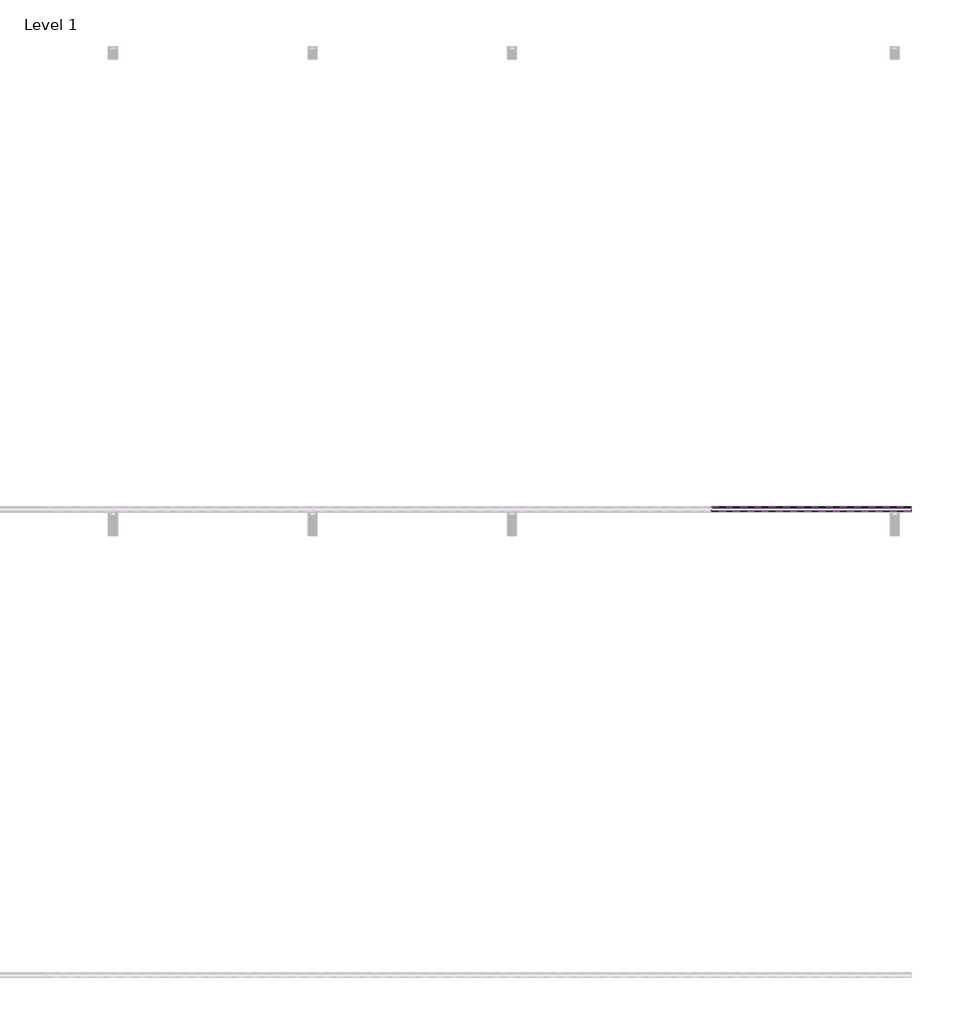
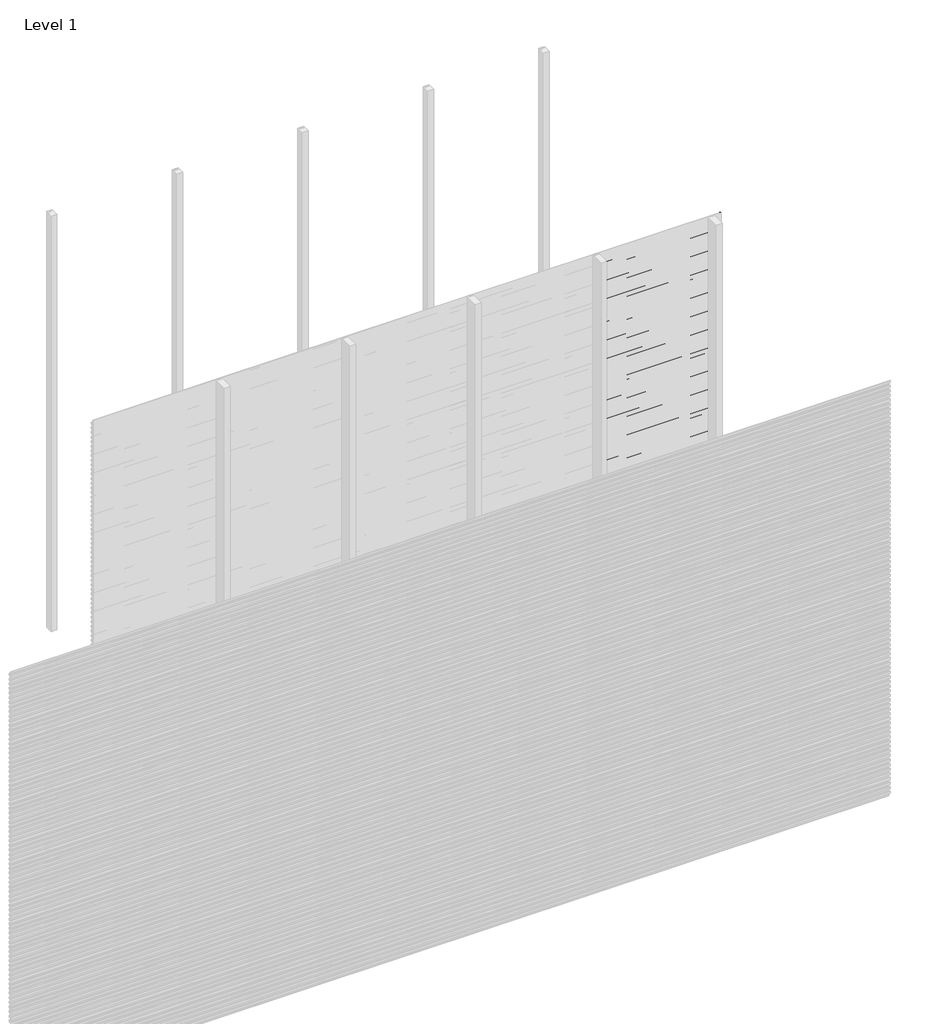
# One storey, part 40 of 96: 76 proxies.
"""IFC4 building model written with IfcOpenShell, lengths in millimetres."""

from ifc_helpers import new_model, si_unit, frame, origin, place, context, project, spatial, polyline, outline, extrude, element, save

model = new_model("IFC4")

# Units and contexts
model_context = context("Model", 3, world=origin())
ifc_project = project(units=[si_unit("LENGTHUNIT", "METRE", prefix="MILLI")], contexts=[model_context])

# Site, building, storey
site = spatial("IfcSite", under=ifc_project)
building = spatial("IfcBuilding", under=site)
storey = spatial("IfcBuildingStorey", under=building, Name="Level 1", Elevation=0.0)

# Proxies
placement = place(None, origin())
element("IfcBuildingElementProxy", 1, Name="Wall Sweeps", at=placement, inside=storey, context=model_context, shape_type="SweptSolid", body=[
    extrude(outline(polyline([(-35977.6, 341.0655033), (-35977.6, 326.7779188), (-35982.4114965, 324.0), (-35982.4114965, 325.2701706), (-35978.85, 327.3264016), (-35978.85, 340.3437382), (-35998.0, 351.4000799), (-35998.0, 366.3), (-35996.75, 366.3), (-35996.75, 352.1217609), (-35977.6, 341.0655033)])), frame((4285.7142857, 0.0, 0.0), z_axis=(1.0, 0.0, 0.0), x_axis=(0.0, 1.0, 0.0)), (0.0, 0.0, 1.0), 857.1428571),
])
element("IfcBuildingElementProxy", 2, Name="Wall Sweeps", at=placement, inside=storey, context=model_context, shape_type="SweptSolid", body=[
    extrude(outline(polyline([(-35977.6, 307.7655033), (-35977.6, 293.4779188), (-35982.4114965, 290.7), (-35982.4114965, 291.9701706), (-35978.85, 294.0264016), (-35978.85, 307.0437382), (-35998.0, 318.1000799), (-35998.0, 333.0), (-35996.75, 333.0), (-35996.75, 318.8217609), (-35977.6, 307.7655033)])), frame((4285.7142857, 0.0, 0.0), z_axis=(1.0, 0.0, 0.0), x_axis=(0.0, 1.0, 0.0)), (0.0, 0.0, 1.0), 857.1428571),
])
element("IfcBuildingElementProxy", 3, Name="Wall Sweeps", at=placement, inside=storey, context=model_context, shape_type="SweptSolid", body=[
    extrude(outline(polyline([(-35977.6, 274.4655033), (-35977.6, 260.1779188), (-35982.4114965, 257.4), (-35982.4114965, 258.6701706), (-35978.85, 260.7264016), (-35978.85, 273.7437382), (-35998.0, 284.8000799), (-35998.0, 299.7), (-35996.75, 299.7), (-35996.75, 285.5217609), (-35977.6, 274.4655033)])), frame((4285.7142857, 0.0, 0.0), z_axis=(1.0, 0.0, 0.0), x_axis=(0.0, 1.0, 0.0)), (0.0, 0.0, 1.0), 857.1428571),
])
element("IfcBuildingElementProxy", 4, Name="Wall Sweeps", at=placement, inside=storey, context=model_context, shape_type="SweptSolid", body=[
    extrude(outline(polyline([(-35977.6, 241.1655033), (-35977.6, 226.8779188), (-35982.4114965, 224.1), (-35982.4114965, 225.3701706), (-35978.85, 227.4264016), (-35978.85, 240.4437382), (-35998.0, 251.5000799), (-35998.0, 266.4), (-35996.75, 266.4), (-35996.75, 252.2217609), (-35977.6, 241.1655033)])), frame((4285.7142857, 0.0, 0.0), z_axis=(1.0, 0.0, 0.0), x_axis=(0.0, 1.0, 0.0)), (0.0, 0.0, 1.0), 857.1428571),
])
element("IfcBuildingElementProxy", 5, Name="Wall Sweeps", at=placement, inside=storey, context=model_context, shape_type="SweptSolid", body=[
    extrude(outline(polyline([(-35977.6, 207.8655033), (-35977.6, 193.5779188), (-35982.4114965, 190.8), (-35982.4114965, 192.0701706), (-35978.85, 194.1264016), (-35978.85, 207.1437382), (-35998.0, 218.2000799), (-35998.0, 233.1), (-35996.75, 233.1), (-35996.75, 218.9217609), (-35977.6, 207.8655033)])), frame((4285.7142857, 0.0, 0.0), z_axis=(1.0, 0.0, 0.0), x_axis=(0.0, 1.0, 0.0)), (0.0, 0.0, 1.0), 857.1428571),
])
element("IfcBuildingElementProxy", 6, Name="Wall Sweeps", at=placement, inside=storey, context=model_context, shape_type="SweptSolid", body=[
    extrude(outline(polyline([(-35977.6, 174.5655033), (-35977.6, 160.2779188), (-35982.4114965, 157.5), (-35982.4114965, 158.7701706), (-35978.85, 160.8264016), (-35978.85, 173.8437382), (-35998.0, 184.9000799), (-35998.0, 199.8), (-35996.75, 199.8), (-35996.75, 185.6217609), (-35977.6, 174.5655033)])), frame((4285.7142857, 0.0, 0.0), z_axis=(1.0, 0.0, 0.0), x_axis=(0.0, 1.0, 0.0)), (0.0, 0.0, 1.0), 857.1428571),
])
element("IfcBuildingElementProxy", 7, Name="Wall Sweeps", at=placement, inside=storey, context=model_context, shape_type="SweptSolid", body=[
    extrude(outline(polyline([(-35977.6, 141.2655033), (-35977.6, 126.9779188), (-35982.4114965, 124.2), (-35982.4114965, 125.4701706), (-35978.85, 127.5264016), (-35978.85, 140.5437382), (-35998.0, 151.6000799), (-35998.0, 166.5), (-35996.75, 166.5), (-35996.75, 152.3217609), (-35977.6, 141.2655033)])), frame((4285.7142857, 0.0, 0.0), z_axis=(1.0, 0.0, 0.0), x_axis=(0.0, 1.0, 0.0)), (0.0, 0.0, 1.0), 857.1428571),
])
element("IfcBuildingElementProxy", 8, Name="Wall Sweeps", at=placement, inside=storey, context=model_context, shape_type="SweptSolid", body=[
    extrude(outline(polyline([(-35977.6, 107.9655033), (-35977.6, 93.6779188), (-35982.4114965, 90.9), (-35982.4114965, 92.1701706), (-35978.85, 94.2264016), (-35978.85, 107.2437382), (-35998.0, 118.3000799), (-35998.0, 133.2), (-35996.75, 133.2), (-35996.75, 119.0217609), (-35977.6, 107.9655033)])), frame((4285.7142857, 0.0, 0.0), z_axis=(1.0, 0.0, 0.0), x_axis=(0.0, 1.0, 0.0)), (0.0, 0.0, 1.0), 857.1428571),
])
element("IfcBuildingElementProxy", 9, Name="Wall Sweeps", at=placement, inside=storey, context=model_context, shape_type="SweptSolid", body=[
    extrude(outline(polyline([(-35977.6, 74.6655033), (-35977.6, 60.3779188), (-35982.4114965, 57.6), (-35982.4114965, 58.8701706), (-35978.85, 60.9264016), (-35978.85, 73.9437382), (-35998.0, 85.0000799), (-35998.0, 99.9), (-35996.75, 99.9), (-35996.75, 85.7217609), (-35977.6, 74.6655033)])), frame((4285.7142857, 0.0, 0.0), z_axis=(1.0, 0.0, 0.0), x_axis=(0.0, 1.0, 0.0)), (0.0, 0.0, 1.0), 857.1428571),
])
element("IfcBuildingElementProxy", 10, Name="Wall Sweeps", at=placement, inside=storey, context=model_context, shape_type="SweptSolid", body=[
    extrude(outline(polyline([(-35977.6, 41.3655033), (-35977.6, 27.0779188), (-35982.4114965, 24.3), (-35982.4114965, 25.5701706), (-35978.85, 27.6264016), (-35978.85, 40.6437382), (-35998.0, 51.7000799), (-35998.0, 66.6), (-35996.75, 66.6), (-35996.75, 52.4217609), (-35977.6, 41.3655033)])), frame((4285.7142857, 0.0, 0.0), z_axis=(1.0, 0.0, 0.0), x_axis=(0.0, 1.0, 0.0)), (0.0, 0.0, 1.0), 857.1428571),
])
element("IfcBuildingElementProxy", 11, Name="Wall Sweeps", at=placement, inside=storey, context=model_context, shape_type="SweptSolid", body=[
    extrude(outline(polyline([(-35977.6, 8.0655033), (-35977.6, -6.2220812), (-35982.4114965, -9.0), (-35982.4114965, -7.7298294), (-35978.85, -5.6735984), (-35978.85, 7.3437382), (-35998.0, 18.4000799), (-35998.0, 33.3), (-35996.75, 33.3), (-35996.75, 19.1217609), (-35977.6, 8.0655033)])), frame((4285.7142857, 0.0, 0.0), z_axis=(1.0, 0.0, 0.0), x_axis=(0.0, 1.0, 0.0)), (0.0, 0.0, 1.0), 857.1428571),
])
element("IfcBuildingElementProxy", 12, Name="Wall Sweeps", at=placement, inside=storey, context=model_context, shape_type="SweptSolid", body=[
    extrude(outline(polyline([(-35977.6, 2971.7655033), (-35977.6, 2957.4779188), (-35982.4114965, 2954.7), (-35982.4114965, 2955.9701706), (-35978.85, 2958.0264016), (-35978.85, 2971.0437382), (-35998.0, 2982.1000799), (-35998.0, 2997.0), (-35996.75, 2997.0), (-35996.75, 2982.8217609), (-35977.6, 2971.7655033)])), frame((5142.8571429, 0.0, 0.0), z_axis=(1.0, 0.0, 0.0), x_axis=(0.0, 1.0, 0.0)), (0.0, 0.0, 1.0), 857.1428571),
])
element("IfcBuildingElementProxy", 13, Name="Wall Sweeps", at=placement, inside=storey, context=model_context, shape_type="SweptSolid", body=[
    extrude(outline(polyline([(-35977.6, 2938.4655033), (-35977.6, 2924.1779188), (-35982.4114965, 2921.4), (-35982.4114965, 2922.6701706), (-35978.85, 2924.7264016), (-35978.85, 2937.7437382), (-35998.0, 2948.8000799), (-35998.0, 2963.7), (-35996.75, 2963.7), (-35996.75, 2949.5217609), (-35977.6, 2938.4655033)])), frame((5142.8571429, 0.0, 0.0), z_axis=(1.0, 0.0, 0.0), x_axis=(0.0, 1.0, 0.0)), (0.0, 0.0, 1.0), 857.1428571),
])
element("IfcBuildingElementProxy", 14, Name="Wall Sweeps", at=placement, inside=storey, context=model_context, shape_type="SweptSolid", body=[
    extrude(outline(polyline([(-35977.6, 2905.1655033), (-35977.6, 2890.8779188), (-35982.4114965, 2888.1), (-35982.4114965, 2889.3701706), (-35978.85, 2891.4264016), (-35978.85, 2904.4437382), (-35998.0, 2915.5000799), (-35998.0, 2930.4), (-35996.75, 2930.4), (-35996.75, 2916.2217609), (-35977.6, 2905.1655033)])), frame((5142.8571429, 0.0, 0.0), z_axis=(1.0, 0.0, 0.0), x_axis=(0.0, 1.0, 0.0)), (0.0, 0.0, 1.0), 857.1428571),
])
element("IfcBuildingElementProxy", 15, Name="Wall Sweeps", at=placement, inside=storey, context=model_context, shape_type="SweptSolid", body=[
    extrude(outline(polyline([(-35977.6, 2871.8655033), (-35977.6, 2857.5779188), (-35982.4114965, 2854.8), (-35982.4114965, 2856.0701706), (-35978.85, 2858.1264016), (-35978.85, 2871.1437382), (-35998.0, 2882.2000799), (-35998.0, 2897.1), (-35996.75, 2897.1), (-35996.75, 2882.9217609), (-35977.6, 2871.8655033)])), frame((5142.8571429, 0.0, 0.0), z_axis=(1.0, 0.0, 0.0), x_axis=(0.0, 1.0, 0.0)), (0.0, 0.0, 1.0), 857.1428571),
])
element("IfcBuildingElementProxy", 16, Name="Wall Sweeps", at=placement, inside=storey, context=model_context, shape_type="SweptSolid", body=[
    extrude(outline(polyline([(-35977.6, 2838.5655033), (-35977.6, 2824.2779188), (-35982.4114965, 2821.5), (-35982.4114965, 2822.7701706), (-35978.85, 2824.8264016), (-35978.85, 2837.8437382), (-35998.0, 2848.9000799), (-35998.0, 2863.8), (-35996.75, 2863.8), (-35996.75, 2849.6217609), (-35977.6, 2838.5655033)])), frame((5142.8571429, 0.0, 0.0), z_axis=(1.0, 0.0, 0.0), x_axis=(0.0, 1.0, 0.0)), (0.0, 0.0, 1.0), 857.1428571),
])
element("IfcBuildingElementProxy", 17, Name="Wall Sweeps", at=placement, inside=storey, context=model_context, shape_type="SweptSolid", body=[
    extrude(outline(polyline([(-35977.6, 2805.2655033), (-35977.6, 2790.9779188), (-35982.4114965, 2788.2), (-35982.4114965, 2789.4701706), (-35978.85, 2791.5264016), (-35978.85, 2804.5437382), (-35998.0, 2815.6000799), (-35998.0, 2830.5), (-35996.75, 2830.5), (-35996.75, 2816.3217609), (-35977.6, 2805.2655033)])), frame((5142.8571429, 0.0, 0.0), z_axis=(1.0, 0.0, 0.0), x_axis=(0.0, 1.0, 0.0)), (0.0, 0.0, 1.0), 857.1428571),
])
element("IfcBuildingElementProxy", 18, Name="Wall Sweeps", at=placement, inside=storey, context=model_context, shape_type="SweptSolid", body=[
    extrude(outline(polyline([(-35977.6, 2771.9655033), (-35977.6, 2757.6779188), (-35982.4114965, 2754.9), (-35982.4114965, 2756.1701706), (-35978.85, 2758.2264016), (-35978.85, 2771.2437382), (-35998.0, 2782.3000799), (-35998.0, 2797.2), (-35996.75, 2797.2), (-35996.75, 2783.0217609), (-35977.6, 2771.9655033)])), frame((5142.8571429, 0.0, 0.0), z_axis=(1.0, 0.0, 0.0), x_axis=(0.0, 1.0, 0.0)), (0.0, 0.0, 1.0), 857.1428571),
])
element("IfcBuildingElementProxy", 19, Name="Wall Sweeps", at=placement, inside=storey, context=model_context, shape_type="SweptSolid", body=[
    extrude(outline(polyline([(-35977.6, 2738.6655033), (-35977.6, 2724.3779188), (-35982.4114965, 2721.6), (-35982.4114965, 2722.8701706), (-35978.85, 2724.9264016), (-35978.85, 2737.9437382), (-35998.0, 2749.0000799), (-35998.0, 2763.9), (-35996.75, 2763.9), (-35996.75, 2749.7217609), (-35977.6, 2738.6655033)])), frame((5142.8571429, 0.0, 0.0), z_axis=(1.0, 0.0, 0.0), x_axis=(0.0, 1.0, 0.0)), (0.0, 0.0, 1.0), 857.1428571),
])
element("IfcBuildingElementProxy", 20, Name="Wall Sweeps", at=placement, inside=storey, context=model_context, shape_type="SweptSolid", body=[
    extrude(outline(polyline([(-35977.6, 2705.3655033), (-35977.6, 2691.0779188), (-35982.4114965, 2688.3), (-35982.4114965, 2689.5701706), (-35978.85, 2691.6264016), (-35978.85, 2704.6437382), (-35998.0, 2715.7000799), (-35998.0, 2730.6), (-35996.75, 2730.6), (-35996.75, 2716.4217609), (-35977.6, 2705.3655033)])), frame((5142.8571429, 0.0, 0.0), z_axis=(1.0, 0.0, 0.0), x_axis=(0.0, 1.0, 0.0)), (0.0, 0.0, 1.0), 857.1428571),
])
element("IfcBuildingElementProxy", 21, Name="Wall Sweeps", at=placement, inside=storey, context=model_context, shape_type="SweptSolid", body=[
    extrude(outline(polyline([(-35977.6, 2672.0655033), (-35977.6, 2657.7779188), (-35982.4114965, 2655.0), (-35982.4114965, 2656.2701706), (-35978.85, 2658.3264016), (-35978.85, 2671.3437382), (-35998.0, 2682.4000799), (-35998.0, 2697.3), (-35996.75, 2697.3), (-35996.75, 2683.1217609), (-35977.6, 2672.0655033)])), frame((5142.8571429, 0.0, 0.0), z_axis=(1.0, 0.0, 0.0), x_axis=(0.0, 1.0, 0.0)), (0.0, 0.0, 1.0), 857.1428571),
])
element("IfcBuildingElementProxy", 22, Name="Wall Sweeps", at=placement, inside=storey, context=model_context, shape_type="SweptSolid", body=[
    extrude(outline(polyline([(-35977.6, 2638.7655033), (-35977.6, 2624.4779188), (-35982.4114965, 2621.7), (-35982.4114965, 2622.9701706), (-35978.85, 2625.0264016), (-35978.85, 2638.0437382), (-35998.0, 2649.1000799), (-35998.0, 2664.0), (-35996.75, 2664.0), (-35996.75, 2649.8217609), (-35977.6, 2638.7655033)])), frame((5142.8571429, 0.0, 0.0), z_axis=(1.0, 0.0, 0.0), x_axis=(0.0, 1.0, 0.0)), (0.0, 0.0, 1.0), 857.1428571),
])
element("IfcBuildingElementProxy", 23, Name="Wall Sweeps", at=placement, inside=storey, context=model_context, shape_type="SweptSolid", body=[
    extrude(outline(polyline([(-35977.6, 2605.4655033), (-35977.6, 2591.1779188), (-35982.4114965, 2588.4), (-35982.4114965, 2589.6701706), (-35978.85, 2591.7264016), (-35978.85, 2604.7437382), (-35998.0, 2615.8000799), (-35998.0, 2630.7), (-35996.75, 2630.7), (-35996.75, 2616.5217609), (-35977.6, 2605.4655033)])), frame((5142.8571429, 0.0, 0.0), z_axis=(1.0, 0.0, 0.0), x_axis=(0.0, 1.0, 0.0)), (0.0, 0.0, 1.0), 857.1428571),
])
element("IfcBuildingElementProxy", 24, Name="Wall Sweeps", at=placement, inside=storey, context=model_context, shape_type="SweptSolid", body=[
    extrude(outline(polyline([(-35977.6, 2572.1655033), (-35977.6, 2557.8779188), (-35982.4114965, 2555.1), (-35982.4114965, 2556.3701706), (-35978.85, 2558.4264016), (-35978.85, 2571.4437382), (-35998.0, 2582.5000799), (-35998.0, 2597.4), (-35996.75, 2597.4), (-35996.75, 2583.2217609), (-35977.6, 2572.1655033)])), frame((5142.8571429, 0.0, 0.0), z_axis=(1.0, 0.0, 0.0), x_axis=(0.0, 1.0, 0.0)), (0.0, 0.0, 1.0), 857.1428571),
])
element("IfcBuildingElementProxy", 25, Name="Wall Sweeps", at=placement, inside=storey, context=model_context, shape_type="SweptSolid", body=[
    extrude(outline(polyline([(-35977.6, 2538.8655033), (-35977.6, 2524.5779188), (-35982.4114965, 2521.8), (-35982.4114965, 2523.0701706), (-35978.85, 2525.1264016), (-35978.85, 2538.1437382), (-35998.0, 2549.2000799), (-35998.0, 2564.1), (-35996.75, 2564.1), (-35996.75, 2549.9217609), (-35977.6, 2538.8655033)])), frame((5142.8571429, 0.0, 0.0), z_axis=(1.0, 0.0, 0.0), x_axis=(0.0, 1.0, 0.0)), (0.0, 0.0, 1.0), 857.1428571),
])
element("IfcBuildingElementProxy", 26, Name="Wall Sweeps", at=placement, inside=storey, context=model_context, shape_type="SweptSolid", body=[
    extrude(outline(polyline([(-35977.6, 2505.5655033), (-35977.6, 2491.2779188), (-35982.4114965, 2488.5), (-35982.4114965, 2489.7701706), (-35978.85, 2491.8264016), (-35978.85, 2504.8437382), (-35998.0, 2515.9000799), (-35998.0, 2530.8), (-35996.75, 2530.8), (-35996.75, 2516.6217609), (-35977.6, 2505.5655033)])), frame((5142.8571429, 0.0, 0.0), z_axis=(1.0, 0.0, 0.0), x_axis=(0.0, 1.0, 0.0)), (0.0, 0.0, 1.0), 857.1428571),
])
element("IfcBuildingElementProxy", 27, Name="Wall Sweeps", at=placement, inside=storey, context=model_context, shape_type="SweptSolid", body=[
    extrude(outline(polyline([(-35977.6, 2472.2655033), (-35977.6, 2457.9779188), (-35982.4114965, 2455.2), (-35982.4114965, 2456.4701706), (-35978.85, 2458.5264016), (-35978.85, 2471.5437382), (-35998.0, 2482.6000799), (-35998.0, 2497.5), (-35996.75, 2497.5), (-35996.75, 2483.3217609), (-35977.6, 2472.2655033)])), frame((5142.8571429, 0.0, 0.0), z_axis=(1.0, 0.0, 0.0), x_axis=(0.0, 1.0, 0.0)), (0.0, 0.0, 1.0), 857.1428571),
])
element("IfcBuildingElementProxy", 28, Name="Wall Sweeps", at=placement, inside=storey, context=model_context, shape_type="SweptSolid", body=[
    extrude(outline(polyline([(-35977.6, 2438.9655033), (-35977.6, 2424.6779188), (-35982.4114965, 2421.9), (-35982.4114965, 2423.1701706), (-35978.85, 2425.2264016), (-35978.85, 2438.2437382), (-35998.0, 2449.3000799), (-35998.0, 2464.2), (-35996.75, 2464.2), (-35996.75, 2450.0217609), (-35977.6, 2438.9655033)])), frame((5142.8571429, 0.0, 0.0), z_axis=(1.0, 0.0, 0.0), x_axis=(0.0, 1.0, 0.0)), (0.0, 0.0, 1.0), 857.1428571),
])
element("IfcBuildingElementProxy", 29, Name="Wall Sweeps", at=placement, inside=storey, context=model_context, shape_type="SweptSolid", body=[
    extrude(outline(polyline([(-35977.6, 2405.6655033), (-35977.6, 2391.3779188), (-35982.4114965, 2388.6), (-35982.4114965, 2389.8701706), (-35978.85, 2391.9264016), (-35978.85, 2404.9437382), (-35998.0, 2416.0000799), (-35998.0, 2430.9), (-35996.75, 2430.9), (-35996.75, 2416.7217609), (-35977.6, 2405.6655033)])), frame((5142.8571429, 0.0, 0.0), z_axis=(1.0, 0.0, 0.0), x_axis=(0.0, 1.0, 0.0)), (0.0, 0.0, 1.0), 857.1428571),
])
element("IfcBuildingElementProxy", 30, Name="Wall Sweeps", at=placement, inside=storey, context=model_context, shape_type="SweptSolid", body=[
    extrude(outline(polyline([(-35977.6, 2372.3655033), (-35977.6, 2358.0779188), (-35982.4114965, 2355.3), (-35982.4114965, 2356.5701706), (-35978.85, 2358.6264016), (-35978.85, 2371.6437382), (-35998.0, 2382.7000799), (-35998.0, 2397.6), (-35996.75, 2397.6), (-35996.75, 2383.4217609), (-35977.6, 2372.3655033)])), frame((5142.8571429, 0.0, 0.0), z_axis=(1.0, 0.0, 0.0), x_axis=(0.0, 1.0, 0.0)), (0.0, 0.0, 1.0), 857.1428571),
])
element("IfcBuildingElementProxy", 31, Name="Wall Sweeps", at=placement, inside=storey, context=model_context, shape_type="SweptSolid", body=[
    extrude(outline(polyline([(-35977.6, 2339.0655033), (-35977.6, 2324.7779188), (-35982.4114965, 2322.0), (-35982.4114965, 2323.2701706), (-35978.85, 2325.3264016), (-35978.85, 2338.3437382), (-35998.0, 2349.4000799), (-35998.0, 2364.3), (-35996.75, 2364.3), (-35996.75, 2350.1217609), (-35977.6, 2339.0655033)])), frame((5142.8571429, 0.0, 0.0), z_axis=(1.0, 0.0, 0.0), x_axis=(0.0, 1.0, 0.0)), (0.0, 0.0, 1.0), 857.1428571),
])
element("IfcBuildingElementProxy", 32, Name="Wall Sweeps", at=placement, inside=storey, context=model_context, shape_type="SweptSolid", body=[
    extrude(outline(polyline([(-35977.6, 2305.7655033), (-35977.6, 2291.4779188), (-35982.4114965, 2288.7), (-35982.4114965, 2289.9701706), (-35978.85, 2292.0264016), (-35978.85, 2305.0437382), (-35998.0, 2316.1000799), (-35998.0, 2331.0), (-35996.75, 2331.0), (-35996.75, 2316.8217609), (-35977.6, 2305.7655033)])), frame((5142.8571429, 0.0, 0.0), z_axis=(1.0, 0.0, 0.0), x_axis=(0.0, 1.0, 0.0)), (0.0, 0.0, 1.0), 857.1428571),
])
element("IfcBuildingElementProxy", 33, Name="Wall Sweeps", at=placement, inside=storey, context=model_context, shape_type="SweptSolid", body=[
    extrude(outline(polyline([(-35977.6, 2272.4655033), (-35977.6, 2258.1779188), (-35982.4114965, 2255.4), (-35982.4114965, 2256.6701706), (-35978.85, 2258.7264016), (-35978.85, 2271.7437382), (-35998.0, 2282.8000799), (-35998.0, 2297.7), (-35996.75, 2297.7), (-35996.75, 2283.5217609), (-35977.6, 2272.4655033)])), frame((5142.8571429, 0.0, 0.0), z_axis=(1.0, 0.0, 0.0), x_axis=(0.0, 1.0, 0.0)), (0.0, 0.0, 1.0), 857.1428571),
])
element("IfcBuildingElementProxy", 34, Name="Wall Sweeps", at=placement, inside=storey, context=model_context, shape_type="SweptSolid", body=[
    extrude(outline(polyline([(-35977.6, 2239.1655033), (-35977.6, 2224.8779188), (-35982.4114965, 2222.1), (-35982.4114965, 2223.3701706), (-35978.85, 2225.4264016), (-35978.85, 2238.4437382), (-35998.0, 2249.5000799), (-35998.0, 2264.4), (-35996.75, 2264.4), (-35996.75, 2250.2217609), (-35977.6, 2239.1655033)])), frame((5142.8571429, 0.0, 0.0), z_axis=(1.0, 0.0, 0.0), x_axis=(0.0, 1.0, 0.0)), (0.0, 0.0, 1.0), 857.1428571),
])
element("IfcBuildingElementProxy", 35, Name="Wall Sweeps", at=placement, inside=storey, context=model_context, shape_type="SweptSolid", body=[
    extrude(outline(polyline([(-35977.6, 2205.8655033), (-35977.6, 2191.5779188), (-35982.4114965, 2188.8), (-35982.4114965, 2190.0701706), (-35978.85, 2192.1264016), (-35978.85, 2205.1437382), (-35998.0, 2216.2000799), (-35998.0, 2231.1), (-35996.75, 2231.1), (-35996.75, 2216.9217609), (-35977.6, 2205.8655033)])), frame((5142.8571429, 0.0, 0.0), z_axis=(1.0, 0.0, 0.0), x_axis=(0.0, 1.0, 0.0)), (0.0, 0.0, 1.0), 857.1428571),
])
element("IfcBuildingElementProxy", 36, Name="Wall Sweeps", at=placement, inside=storey, context=model_context, shape_type="SweptSolid", body=[
    extrude(outline(polyline([(-35977.6, 2172.5655033), (-35977.6, 2158.2779188), (-35982.4114965, 2155.5), (-35982.4114965, 2156.7701706), (-35978.85, 2158.8264016), (-35978.85, 2171.8437382), (-35998.0, 2182.9000799), (-35998.0, 2197.8), (-35996.75, 2197.8), (-35996.75, 2183.6217609), (-35977.6, 2172.5655033)])), frame((5142.8571429, 0.0, 0.0), z_axis=(1.0, 0.0, 0.0), x_axis=(0.0, 1.0, 0.0)), (0.0, 0.0, 1.0), 857.1428571),
])
element("IfcBuildingElementProxy", 37, Name="Wall Sweeps", at=placement, inside=storey, context=model_context, shape_type="SweptSolid", body=[
    extrude(outline(polyline([(-35977.6, 2139.2655033), (-35977.6, 2124.9779188), (-35982.4114965, 2122.2), (-35982.4114965, 2123.4701706), (-35978.85, 2125.5264016), (-35978.85, 2138.5437382), (-35998.0, 2149.6000799), (-35998.0, 2164.5), (-35996.75, 2164.5), (-35996.75, 2150.3217609), (-35977.6, 2139.2655033)])), frame((5142.8571429, 0.0, 0.0), z_axis=(1.0, 0.0, 0.0), x_axis=(0.0, 1.0, 0.0)), (0.0, 0.0, 1.0), 857.1428571),
])
element("IfcBuildingElementProxy", 38, Name="Wall Sweeps", at=placement, inside=storey, context=model_context, shape_type="SweptSolid", body=[
    extrude(outline(polyline([(-35977.6, 2105.9655033), (-35977.6, 2091.6779188), (-35982.4114965, 2088.9), (-35982.4114965, 2090.1701706), (-35978.85, 2092.2264016), (-35978.85, 2105.2437382), (-35998.0, 2116.3000799), (-35998.0, 2131.2), (-35996.75, 2131.2), (-35996.75, 2117.0217609), (-35977.6, 2105.9655033)])), frame((5142.8571429, 0.0, 0.0), z_axis=(1.0, 0.0, 0.0), x_axis=(0.0, 1.0, 0.0)), (0.0, 0.0, 1.0), 857.1428571),
])
element("IfcBuildingElementProxy", 39, Name="Wall Sweeps", at=placement, inside=storey, context=model_context, shape_type="SweptSolid", body=[
    extrude(outline(polyline([(-35977.6, 2072.6655033), (-35977.6, 2058.3779188), (-35982.4114965, 2055.6), (-35982.4114965, 2056.8701706), (-35978.85, 2058.9264016), (-35978.85, 2071.9437382), (-35998.0, 2083.0000799), (-35998.0, 2097.9), (-35996.75, 2097.9), (-35996.75, 2083.7217609), (-35977.6, 2072.6655033)])), frame((5142.8571429, 0.0, 0.0), z_axis=(1.0, 0.0, 0.0), x_axis=(0.0, 1.0, 0.0)), (0.0, 0.0, 1.0), 857.1428571),
])
element("IfcBuildingElementProxy", 40, Name="Wall Sweeps", at=placement, inside=storey, context=model_context, shape_type="SweptSolid", body=[
    extrude(outline(polyline([(-35977.6, 2039.3655033), (-35977.6, 2025.0779188), (-35982.4114965, 2022.3), (-35982.4114965, 2023.5701706), (-35978.85, 2025.6264016), (-35978.85, 2038.6437382), (-35998.0, 2049.7000799), (-35998.0, 2064.6), (-35996.75, 2064.6), (-35996.75, 2050.4217609), (-35977.6, 2039.3655033)])), frame((5142.8571429, 0.0, 0.0), z_axis=(1.0, 0.0, 0.0), x_axis=(0.0, 1.0, 0.0)), (0.0, 0.0, 1.0), 857.1428571),
])
element("IfcBuildingElementProxy", 41, Name="Wall Sweeps", at=placement, inside=storey, context=model_context, shape_type="SweptSolid", body=[
    extrude(outline(polyline([(-35977.6, 2006.0655033), (-35977.6, 1991.7779188), (-35982.4114965, 1989.0), (-35982.4114965, 1990.2701706), (-35978.85, 1992.3264016), (-35978.85, 2005.3437382), (-35998.0, 2016.4000799), (-35998.0, 2031.3), (-35996.75, 2031.3), (-35996.75, 2017.1217609), (-35977.6, 2006.0655033)])), frame((5142.8571429, 0.0, 0.0), z_axis=(1.0, 0.0, 0.0), x_axis=(0.0, 1.0, 0.0)), (0.0, 0.0, 1.0), 857.1428571),
])
element("IfcBuildingElementProxy", 42, Name="Wall Sweeps", at=placement, inside=storey, context=model_context, shape_type="SweptSolid", body=[
    extrude(outline(polyline([(-35977.6, 1972.7655033), (-35977.6, 1958.4779188), (-35982.4114965, 1955.7), (-35982.4114965, 1956.9701706), (-35978.85, 1959.0264016), (-35978.85, 1972.0437382), (-35998.0, 1983.1000799), (-35998.0, 1998.0), (-35996.75, 1998.0), (-35996.75, 1983.8217609), (-35977.6, 1972.7655033)])), frame((5142.8571429, 0.0, 0.0), z_axis=(1.0, 0.0, 0.0), x_axis=(0.0, 1.0, 0.0)), (0.0, 0.0, 1.0), 857.1428571),
])
element("IfcBuildingElementProxy", 43, Name="Wall Sweeps", at=placement, inside=storey, context=model_context, shape_type="SweptSolid", body=[
    extrude(outline(polyline([(-35977.6, 1939.4655033), (-35977.6, 1925.1779188), (-35982.4114965, 1922.4), (-35982.4114965, 1923.6701706), (-35978.85, 1925.7264016), (-35978.85, 1938.7437382), (-35998.0, 1949.8000799), (-35998.0, 1964.7), (-35996.75, 1964.7), (-35996.75, 1950.5217609), (-35977.6, 1939.4655033)])), frame((5142.8571429, 0.0, 0.0), z_axis=(1.0, 0.0, 0.0), x_axis=(0.0, 1.0, 0.0)), (0.0, 0.0, 1.0), 857.1428571),
])
element("IfcBuildingElementProxy", 44, Name="Wall Sweeps", at=placement, inside=storey, context=model_context, shape_type="SweptSolid", body=[
    extrude(outline(polyline([(-35977.6, 1906.1655033), (-35977.6, 1891.8779188), (-35982.4114965, 1889.1), (-35982.4114965, 1890.3701706), (-35978.85, 1892.4264016), (-35978.85, 1905.4437382), (-35998.0, 1916.5000799), (-35998.0, 1931.4), (-35996.75, 1931.4), (-35996.75, 1917.2217609), (-35977.6, 1906.1655033)])), frame((5142.8571429, 0.0, 0.0), z_axis=(1.0, 0.0, 0.0), x_axis=(0.0, 1.0, 0.0)), (0.0, 0.0, 1.0), 857.1428571),
])
element("IfcBuildingElementProxy", 45, Name="Wall Sweeps", at=placement, inside=storey, context=model_context, shape_type="SweptSolid", body=[
    extrude(outline(polyline([(-35977.6, 1872.8655033), (-35977.6, 1858.5779188), (-35982.4114965, 1855.8), (-35982.4114965, 1857.0701706), (-35978.85, 1859.1264016), (-35978.85, 1872.1437382), (-35998.0, 1883.2000799), (-35998.0, 1898.1), (-35996.75, 1898.1), (-35996.75, 1883.9217609), (-35977.6, 1872.8655033)])), frame((5142.8571429, 0.0, 0.0), z_axis=(1.0, 0.0, 0.0), x_axis=(0.0, 1.0, 0.0)), (0.0, 0.0, 1.0), 857.1428571),
])
element("IfcBuildingElementProxy", 46, Name="Wall Sweeps", at=placement, inside=storey, context=model_context, shape_type="SweptSolid", body=[
    extrude(outline(polyline([(-35977.6, 1839.5655033), (-35977.6, 1825.2779188), (-35982.4114965, 1822.5), (-35982.4114965, 1823.7701706), (-35978.85, 1825.8264016), (-35978.85, 1838.8437382), (-35998.0, 1849.9000799), (-35998.0, 1864.8), (-35996.75, 1864.8), (-35996.75, 1850.6217609), (-35977.6, 1839.5655033)])), frame((5142.8571429, 0.0, 0.0), z_axis=(1.0, 0.0, 0.0), x_axis=(0.0, 1.0, 0.0)), (0.0, 0.0, 1.0), 857.1428571),
])
element("IfcBuildingElementProxy", 47, Name="Wall Sweeps", at=placement, inside=storey, context=model_context, shape_type="SweptSolid", body=[
    extrude(outline(polyline([(-35977.6, 1806.2655033), (-35977.6, 1791.9779188), (-35982.4114965, 1789.2), (-35982.4114965, 1790.4701706), (-35978.85, 1792.5264016), (-35978.85, 1805.5437382), (-35998.0, 1816.6000799), (-35998.0, 1831.5), (-35996.75, 1831.5), (-35996.75, 1817.3217609), (-35977.6, 1806.2655033)])), frame((5142.8571429, 0.0, 0.0), z_axis=(1.0, 0.0, 0.0), x_axis=(0.0, 1.0, 0.0)), (0.0, 0.0, 1.0), 857.1428571),
])
element("IfcBuildingElementProxy", 48, Name="Wall Sweeps", at=placement, inside=storey, context=model_context, shape_type="SweptSolid", body=[
    extrude(outline(polyline([(-35977.6, 1772.9655033), (-35977.6, 1758.6779188), (-35982.4114965, 1755.9), (-35982.4114965, 1757.1701706), (-35978.85, 1759.2264016), (-35978.85, 1772.2437382), (-35998.0, 1783.3000799), (-35998.0, 1798.2), (-35996.75, 1798.2), (-35996.75, 1784.0217609), (-35977.6, 1772.9655033)])), frame((5142.8571429, 0.0, 0.0), z_axis=(1.0, 0.0, 0.0), x_axis=(0.0, 1.0, 0.0)), (0.0, 0.0, 1.0), 857.1428571),
])
element("IfcBuildingElementProxy", 49, Name="Wall Sweeps", at=placement, inside=storey, context=model_context, shape_type="SweptSolid", body=[
    extrude(outline(polyline([(-35977.6, 1739.6655033), (-35977.6, 1725.3779188), (-35982.4114965, 1722.6), (-35982.4114965, 1723.8701706), (-35978.85, 1725.9264016), (-35978.85, 1738.9437382), (-35998.0, 1750.0000799), (-35998.0, 1764.9), (-35996.75, 1764.9), (-35996.75, 1750.7217609), (-35977.6, 1739.6655033)])), frame((5142.8571429, 0.0, 0.0), z_axis=(1.0, 0.0, 0.0), x_axis=(0.0, 1.0, 0.0)), (0.0, 0.0, 1.0), 857.1428571),
])
element("IfcBuildingElementProxy", 50, Name="Wall Sweeps", at=placement, inside=storey, context=model_context, shape_type="SweptSolid", body=[
    extrude(outline(polyline([(-35977.6, 1706.3655033), (-35977.6, 1692.0779188), (-35982.4114965, 1689.3), (-35982.4114965, 1690.5701706), (-35978.85, 1692.6264016), (-35978.85, 1705.6437382), (-35998.0, 1716.7000799), (-35998.0, 1731.6), (-35996.75, 1731.6), (-35996.75, 1717.4217609), (-35977.6, 1706.3655033)])), frame((5142.8571429, 0.0, 0.0), z_axis=(1.0, 0.0, 0.0), x_axis=(0.0, 1.0, 0.0)), (0.0, 0.0, 1.0), 857.1428571),
])
element("IfcBuildingElementProxy", 51, Name="Wall Sweeps", at=placement, inside=storey, context=model_context, shape_type="SweptSolid", body=[
    extrude(outline(polyline([(-35977.6, 1673.0655033), (-35977.6, 1658.7779188), (-35982.4114965, 1656.0), (-35982.4114965, 1657.2701706), (-35978.85, 1659.3264016), (-35978.85, 1672.3437382), (-35998.0, 1683.4000799), (-35998.0, 1698.3), (-35996.75, 1698.3), (-35996.75, 1684.1217609), (-35977.6, 1673.0655033)])), frame((5142.8571429, 0.0, 0.0), z_axis=(1.0, 0.0, 0.0), x_axis=(0.0, 1.0, 0.0)), (0.0, 0.0, 1.0), 857.1428571),
])
element("IfcBuildingElementProxy", 52, Name="Wall Sweeps", at=placement, inside=storey, context=model_context, shape_type="SweptSolid", body=[
    extrude(outline(polyline([(-35977.6, 1639.7655033), (-35977.6, 1625.4779188), (-35982.4114965, 1622.7), (-35982.4114965, 1623.9701706), (-35978.85, 1626.0264016), (-35978.85, 1639.0437382), (-35998.0, 1650.1000799), (-35998.0, 1665.0), (-35996.75, 1665.0), (-35996.75, 1650.8217609), (-35977.6, 1639.7655033)])), frame((5142.8571429, 0.0, 0.0), z_axis=(1.0, 0.0, 0.0), x_axis=(0.0, 1.0, 0.0)), (0.0, 0.0, 1.0), 857.1428571),
])
element("IfcBuildingElementProxy", 53, Name="Wall Sweeps", at=placement, inside=storey, context=model_context, shape_type="SweptSolid", body=[
    extrude(outline(polyline([(-35977.6, 1606.4655033), (-35977.6, 1592.1779188), (-35982.4114965, 1589.4), (-35982.4114965, 1590.6701706), (-35978.85, 1592.7264016), (-35978.85, 1605.7437382), (-35998.0, 1616.8000799), (-35998.0, 1631.7), (-35996.75, 1631.7), (-35996.75, 1617.5217609), (-35977.6, 1606.4655033)])), frame((5142.8571429, 0.0, 0.0), z_axis=(1.0, 0.0, 0.0), x_axis=(0.0, 1.0, 0.0)), (0.0, 0.0, 1.0), 857.1428571),
])
element("IfcBuildingElementProxy", 54, Name="Wall Sweeps", at=placement, inside=storey, context=model_context, shape_type="SweptSolid", body=[
    extrude(outline(polyline([(-35977.6, 1573.1655033), (-35977.6, 1558.8779188), (-35982.4114965, 1556.1), (-35982.4114965, 1557.3701706), (-35978.85, 1559.4264016), (-35978.85, 1572.4437382), (-35998.0, 1583.5000799), (-35998.0, 1598.4), (-35996.75, 1598.4), (-35996.75, 1584.2217609), (-35977.6, 1573.1655033)])), frame((5142.8571429, 0.0, 0.0), z_axis=(1.0, 0.0, 0.0), x_axis=(0.0, 1.0, 0.0)), (0.0, 0.0, 1.0), 857.1428571),
])
element("IfcBuildingElementProxy", 55, Name="Wall Sweeps", at=placement, inside=storey, context=model_context, shape_type="SweptSolid", body=[
    extrude(outline(polyline([(-35977.6, 1539.8655033), (-35977.6, 1525.5779188), (-35982.4114965, 1522.8), (-35982.4114965, 1524.0701706), (-35978.85, 1526.1264016), (-35978.85, 1539.1437382), (-35998.0, 1550.2000799), (-35998.0, 1565.1), (-35996.75, 1565.1), (-35996.75, 1550.9217609), (-35977.6, 1539.8655033)])), frame((5142.8571429, 0.0, 0.0), z_axis=(1.0, 0.0, 0.0), x_axis=(0.0, 1.0, 0.0)), (0.0, 0.0, 1.0), 857.1428571),
])
element("IfcBuildingElementProxy", 56, Name="Wall Sweeps", at=placement, inside=storey, context=model_context, shape_type="SweptSolid", body=[
    extrude(outline(polyline([(-35977.6, 1506.5655033), (-35977.6, 1492.2779188), (-35982.4114965, 1489.5), (-35982.4114965, 1490.7701706), (-35978.85, 1492.8264016), (-35978.85, 1505.8437382), (-35998.0, 1516.9000799), (-35998.0, 1531.8), (-35996.75, 1531.8), (-35996.75, 1517.6217609), (-35977.6, 1506.5655033)])), frame((5142.8571429, 0.0, 0.0), z_axis=(1.0, 0.0, 0.0), x_axis=(0.0, 1.0, 0.0)), (0.0, 0.0, 1.0), 857.1428571),
])
element("IfcBuildingElementProxy", 57, Name="Wall Sweeps", at=placement, inside=storey, context=model_context, shape_type="SweptSolid", body=[
    extrude(outline(polyline([(-35977.6, 1473.2655033), (-35977.6, 1458.9779188), (-35982.4114965, 1456.2), (-35982.4114965, 1457.4701706), (-35978.85, 1459.5264016), (-35978.85, 1472.5437382), (-35998.0, 1483.6000799), (-35998.0, 1498.5), (-35996.75, 1498.5), (-35996.75, 1484.3217609), (-35977.6, 1473.2655033)])), frame((5142.8571429, 0.0, 0.0), z_axis=(1.0, 0.0, 0.0), x_axis=(0.0, 1.0, 0.0)), (0.0, 0.0, 1.0), 857.1428571),
])
element("IfcBuildingElementProxy", 58, Name="Wall Sweeps", at=placement, inside=storey, context=model_context, shape_type="SweptSolid", body=[
    extrude(outline(polyline([(-35977.6, 1439.9655033), (-35977.6, 1425.6779188), (-35982.4114965, 1422.9), (-35982.4114965, 1424.1701706), (-35978.85, 1426.2264016), (-35978.85, 1439.2437382), (-35998.0, 1450.3000799), (-35998.0, 1465.2), (-35996.75, 1465.2), (-35996.75, 1451.0217609), (-35977.6, 1439.9655033)])), frame((5142.8571429, 0.0, 0.0), z_axis=(1.0, 0.0, 0.0), x_axis=(0.0, 1.0, 0.0)), (0.0, 0.0, 1.0), 857.1428571),
])
element("IfcBuildingElementProxy", 59, Name="Wall Sweeps", at=placement, inside=storey, context=model_context, shape_type="SweptSolid", body=[
    extrude(outline(polyline([(-35977.6, 1406.6655033), (-35977.6, 1392.3779188), (-35982.4114965, 1389.6), (-35982.4114965, 1390.8701706), (-35978.85, 1392.9264016), (-35978.85, 1405.9437382), (-35998.0, 1417.0000799), (-35998.0, 1431.9), (-35996.75, 1431.9), (-35996.75, 1417.7217609), (-35977.6, 1406.6655033)])), frame((5142.8571429, 0.0, 0.0), z_axis=(1.0, 0.0, 0.0), x_axis=(0.0, 1.0, 0.0)), (0.0, 0.0, 1.0), 857.1428571),
])
element("IfcBuildingElementProxy", 60, Name="Wall Sweeps", at=placement, inside=storey, context=model_context, shape_type="SweptSolid", body=[
    extrude(outline(polyline([(-35977.6, 1373.3655033), (-35977.6, 1359.0779188), (-35982.4114965, 1356.3), (-35982.4114965, 1357.5701706), (-35978.85, 1359.6264016), (-35978.85, 1372.6437382), (-35998.0, 1383.7000799), (-35998.0, 1398.6), (-35996.75, 1398.6), (-35996.75, 1384.4217609), (-35977.6, 1373.3655033)])), frame((5142.8571429, 0.0, 0.0), z_axis=(1.0, 0.0, 0.0), x_axis=(0.0, 1.0, 0.0)), (0.0, 0.0, 1.0), 857.1428571),
])
element("IfcBuildingElementProxy", 61, Name="Wall Sweeps", at=placement, inside=storey, context=model_context, shape_type="SweptSolid", body=[
    extrude(outline(polyline([(-35977.6, 1340.0655033), (-35977.6, 1325.7779188), (-35982.4114965, 1323.0), (-35982.4114965, 1324.2701706), (-35978.85, 1326.3264016), (-35978.85, 1339.3437382), (-35998.0, 1350.4000799), (-35998.0, 1365.3), (-35996.75, 1365.3), (-35996.75, 1351.1217609), (-35977.6, 1340.0655033)])), frame((5142.8571429, 0.0, 0.0), z_axis=(1.0, 0.0, 0.0), x_axis=(0.0, 1.0, 0.0)), (0.0, 0.0, 1.0), 857.1428571),
])
element("IfcBuildingElementProxy", 62, Name="Wall Sweeps", at=placement, inside=storey, context=model_context, shape_type="SweptSolid", body=[
    extrude(outline(polyline([(-35977.6, 1306.7655033), (-35977.6, 1292.4779188), (-35982.4114965, 1289.7), (-35982.4114965, 1290.9701706), (-35978.85, 1293.0264016), (-35978.85, 1306.0437382), (-35998.0, 1317.1000799), (-35998.0, 1332.0), (-35996.75, 1332.0), (-35996.75, 1317.8217609), (-35977.6, 1306.7655033)])), frame((5142.8571429, 0.0, 0.0), z_axis=(1.0, 0.0, 0.0), x_axis=(0.0, 1.0, 0.0)), (0.0, 0.0, 1.0), 857.1428571),
])
element("IfcBuildingElementProxy", 63, Name="Wall Sweeps", at=placement, inside=storey, context=model_context, shape_type="SweptSolid", body=[
    extrude(outline(polyline([(-35977.6, 1273.4655033), (-35977.6, 1259.1779188), (-35982.4114965, 1256.4), (-35982.4114965, 1257.6701706), (-35978.85, 1259.7264016), (-35978.85, 1272.7437382), (-35998.0, 1283.8000799), (-35998.0, 1298.7), (-35996.75, 1298.7), (-35996.75, 1284.5217609), (-35977.6, 1273.4655033)])), frame((5142.8571429, 0.0, 0.0), z_axis=(1.0, 0.0, 0.0), x_axis=(0.0, 1.0, 0.0)), (0.0, 0.0, 1.0), 857.1428571),
])
element("IfcBuildingElementProxy", 64, Name="Wall Sweeps", at=placement, inside=storey, context=model_context, shape_type="SweptSolid", body=[
    extrude(outline(polyline([(-35977.6, 1240.1655033), (-35977.6, 1225.8779188), (-35982.4114965, 1223.1), (-35982.4114965, 1224.3701706), (-35978.85, 1226.4264016), (-35978.85, 1239.4437382), (-35998.0, 1250.5000799), (-35998.0, 1265.4), (-35996.75, 1265.4), (-35996.75, 1251.2217609), (-35977.6, 1240.1655033)])), frame((5142.8571429, 0.0, 0.0), z_axis=(1.0, 0.0, 0.0), x_axis=(0.0, 1.0, 0.0)), (0.0, 0.0, 1.0), 857.1428571),
])
element("IfcBuildingElementProxy", 65, Name="Wall Sweeps", at=placement, inside=storey, context=model_context, shape_type="SweptSolid", body=[
    extrude(outline(polyline([(-35977.6, 1206.8655033), (-35977.6, 1192.5779188), (-35982.4114965, 1189.8), (-35982.4114965, 1191.0701706), (-35978.85, 1193.1264016), (-35978.85, 1206.1437382), (-35998.0, 1217.2000799), (-35998.0, 1232.1), (-35996.75, 1232.1), (-35996.75, 1217.9217609), (-35977.6, 1206.8655033)])), frame((5142.8571429, 0.0, 0.0), z_axis=(1.0, 0.0, 0.0), x_axis=(0.0, 1.0, 0.0)), (0.0, 0.0, 1.0), 857.1428571),
])
element("IfcBuildingElementProxy", 66, Name="Wall Sweeps", at=placement, inside=storey, context=model_context, shape_type="SweptSolid", body=[
    extrude(outline(polyline([(-35977.6, 1173.5655033), (-35977.6, 1159.2779188), (-35982.4114965, 1156.5), (-35982.4114965, 1157.7701706), (-35978.85, 1159.8264016), (-35978.85, 1172.8437382), (-35998.0, 1183.9000799), (-35998.0, 1198.8), (-35996.75, 1198.8), (-35996.75, 1184.6217609), (-35977.6, 1173.5655033)])), frame((5142.8571429, 0.0, 0.0), z_axis=(1.0, 0.0, 0.0), x_axis=(0.0, 1.0, 0.0)), (0.0, 0.0, 1.0), 857.1428571),
])
element("IfcBuildingElementProxy", 67, Name="Wall Sweeps", at=placement, inside=storey, context=model_context, shape_type="SweptSolid", body=[
    extrude(outline(polyline([(-35977.6, 1140.2655033), (-35977.6, 1125.9779188), (-35982.4114965, 1123.2), (-35982.4114965, 1124.4701706), (-35978.85, 1126.5264016), (-35978.85, 1139.5437382), (-35998.0, 1150.6000799), (-35998.0, 1165.5), (-35996.75, 1165.5), (-35996.75, 1151.3217609), (-35977.6, 1140.2655033)])), frame((5142.8571429, 0.0, 0.0), z_axis=(1.0, 0.0, 0.0), x_axis=(0.0, 1.0, 0.0)), (0.0, 0.0, 1.0), 857.1428571),
])
element("IfcBuildingElementProxy", 68, Name="Wall Sweeps", at=placement, inside=storey, context=model_context, shape_type="SweptSolid", body=[
    extrude(outline(polyline([(-35977.6, 1106.9655033), (-35977.6, 1092.6779188), (-35982.4114965, 1089.9), (-35982.4114965, 1091.1701706), (-35978.85, 1093.2264016), (-35978.85, 1106.2437382), (-35998.0, 1117.3000799), (-35998.0, 1132.2), (-35996.75, 1132.2), (-35996.75, 1118.0217609), (-35977.6, 1106.9655033)])), frame((5142.8571429, 0.0, 0.0), z_axis=(1.0, 0.0, 0.0), x_axis=(0.0, 1.0, 0.0)), (0.0, 0.0, 1.0), 857.1428571),
])
element("IfcBuildingElementProxy", 69, Name="Wall Sweeps", at=placement, inside=storey, context=model_context, shape_type="SweptSolid", body=[
    extrude(outline(polyline([(-35977.6, 1073.6655033), (-35977.6, 1059.3779188), (-35982.4114965, 1056.6), (-35982.4114965, 1057.8701706), (-35978.85, 1059.9264016), (-35978.85, 1072.9437382), (-35998.0, 1084.0000799), (-35998.0, 1098.9), (-35996.75, 1098.9), (-35996.75, 1084.7217609), (-35977.6, 1073.6655033)])), frame((5142.8571429, 0.0, 0.0), z_axis=(1.0, 0.0, 0.0), x_axis=(0.0, 1.0, 0.0)), (0.0, 0.0, 1.0), 857.1428571),
])
element("IfcBuildingElementProxy", 70, Name="Wall Sweeps", at=placement, inside=storey, context=model_context, shape_type="SweptSolid", body=[
    extrude(outline(polyline([(-35977.6, 1040.3655033), (-35977.6, 1026.0779188), (-35982.4114965, 1023.3), (-35982.4114965, 1024.5701706), (-35978.85, 1026.6264016), (-35978.85, 1039.6437382), (-35998.0, 1050.7000799), (-35998.0, 1065.6), (-35996.75, 1065.6), (-35996.75, 1051.4217609), (-35977.6, 1040.3655033)])), frame((5142.8571429, 0.0, 0.0), z_axis=(1.0, 0.0, 0.0), x_axis=(0.0, 1.0, 0.0)), (0.0, 0.0, 1.0), 857.1428571),
])
element("IfcBuildingElementProxy", 71, Name="Wall Sweeps", at=placement, inside=storey, context=model_context, shape_type="SweptSolid", body=[
    extrude(outline(polyline([(-35977.6, 1007.0655033), (-35977.6, 992.7779188), (-35982.4114965, 990.0), (-35982.4114965, 991.2701706), (-35978.85, 993.3264016), (-35978.85, 1006.3437382), (-35998.0, 1017.4000799), (-35998.0, 1032.3), (-35996.75, 1032.3), (-35996.75, 1018.1217609), (-35977.6, 1007.0655033)])), frame((5142.8571429, 0.0, 0.0), z_axis=(1.0, 0.0, 0.0), x_axis=(0.0, 1.0, 0.0)), (0.0, 0.0, 1.0), 857.1428571),
])
element("IfcBuildingElementProxy", 72, Name="Wall Sweeps", at=placement, inside=storey, context=model_context, shape_type="SweptSolid", body=[
    extrude(outline(polyline([(-35977.6, 973.7655033), (-35977.6, 959.4779188), (-35982.4114965, 956.7), (-35982.4114965, 957.9701706), (-35978.85, 960.0264016), (-35978.85, 973.0437382), (-35998.0, 984.1000799), (-35998.0, 999.0), (-35996.75, 999.0), (-35996.75, 984.8217609), (-35977.6, 973.7655033)])), frame((5142.8571429, 0.0, 0.0), z_axis=(1.0, 0.0, 0.0), x_axis=(0.0, 1.0, 0.0)), (0.0, 0.0, 1.0), 857.1428571),
])
element("IfcBuildingElementProxy", 73, Name="Wall Sweeps", at=placement, inside=storey, context=model_context, shape_type="SweptSolid", body=[
    extrude(outline(polyline([(-35977.6, 940.4655033), (-35977.6, 926.1779188), (-35982.4114965, 923.4), (-35982.4114965, 924.6701706), (-35978.85, 926.7264016), (-35978.85, 939.7437382), (-35998.0, 950.8000799), (-35998.0, 965.7), (-35996.75, 965.7), (-35996.75, 951.5217609), (-35977.6, 940.4655033)])), frame((5142.8571429, 0.0, 0.0), z_axis=(1.0, 0.0, 0.0), x_axis=(0.0, 1.0, 0.0)), (0.0, 0.0, 1.0), 857.1428571),
])
element("IfcBuildingElementProxy", 74, Name="Wall Sweeps", at=placement, inside=storey, context=model_context, shape_type="SweptSolid", body=[
    extrude(outline(polyline([(-35977.6, 907.1655033), (-35977.6, 892.8779188), (-35982.4114965, 890.1), (-35982.4114965, 891.3701706), (-35978.85, 893.4264016), (-35978.85, 906.4437382), (-35998.0, 917.5000799), (-35998.0, 932.4), (-35996.75, 932.4), (-35996.75, 918.2217609), (-35977.6, 907.1655033)])), frame((5142.8571429, 0.0, 0.0), z_axis=(1.0, 0.0, 0.0), x_axis=(0.0, 1.0, 0.0)), (0.0, 0.0, 1.0), 857.1428571),
])
element("IfcBuildingElementProxy", 75, Name="Wall Sweeps", at=placement, inside=storey, context=model_context, shape_type="SweptSolid", body=[
    extrude(outline(polyline([(-35977.6, 873.8655033), (-35977.6, 859.5779188), (-35982.4114965, 856.8), (-35982.4114965, 858.0701706), (-35978.85, 860.1264016), (-35978.85, 873.1437382), (-35998.0, 884.2000799), (-35998.0, 899.1), (-35996.75, 899.1), (-35996.75, 884.9217609), (-35977.6, 873.8655033)])), frame((5142.8571429, 0.0, 0.0), z_axis=(1.0, 0.0, 0.0), x_axis=(0.0, 1.0, 0.0)), (0.0, 0.0, 1.0), 857.1428571),
])
element("IfcBuildingElementProxy", 76, Name="Wall Sweeps", at=placement, inside=storey, context=model_context, shape_type="SweptSolid", body=[
    extrude(outline(polyline([(-35977.6, 840.5655033), (-35977.6, 826.2779188), (-35982.4114965, 823.5), (-35982.4114965, 824.7701706), (-35978.85, 826.8264016), (-35978.85, 839.8437382), (-35998.0, 850.9000799), (-35998.0, 865.8), (-35996.75, 865.8), (-35996.75, 851.6217609), (-35977.6, 840.5655033)])), frame((5142.8571429, 0.0, 0.0), z_axis=(1.0, 0.0, 0.0), x_axis=(0.0, 1.0, 0.0)), (0.0, 0.0, 1.0), 857.1428571),
])

save(model, "model.ifc")
